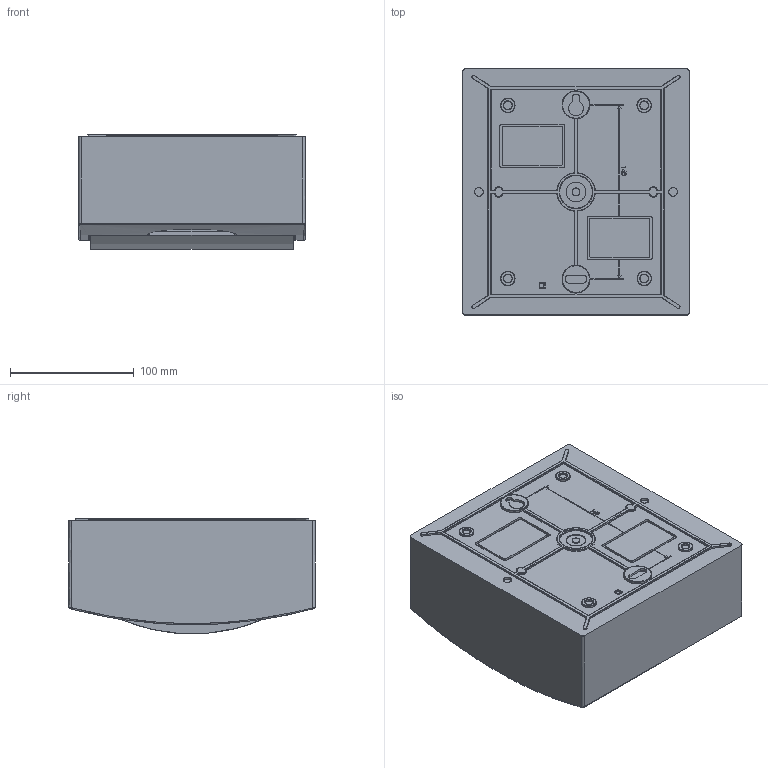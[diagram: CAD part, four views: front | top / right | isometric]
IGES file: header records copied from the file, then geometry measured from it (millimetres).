
Start section: SolidWorks IGES file using analytic representation for surfaces
Global section: file name: Q:\GROUPS\BR_SC_JGS_WA_TECNICO\ENG\Usuarios\Rodrigob\conversão\Linha Predial\Produto\Quadros QDW\QDW\QDW02-S\QDW02-8-S\QDW02-8-S.IGS; native system: SolidWorks 2012; preprocessor: SolidWorks 2012; author: rodrigob; date: 140320.142703; units: millimetre
Bounding box: 183 x 199 x 93.61 mm (x, y, z)
Surface area: 195639.4 mm2 (no closed solid volume)
Topology: 0 solids, 0 shells, 600 faces, 8659 edges, 8659 vertices
Faces by surface type: bspline 372, revolution 228
